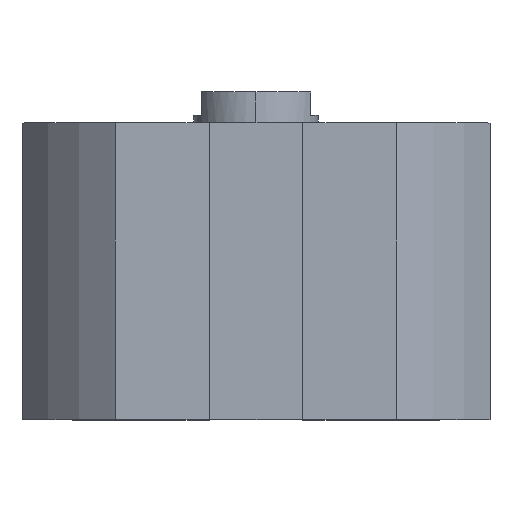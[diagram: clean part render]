
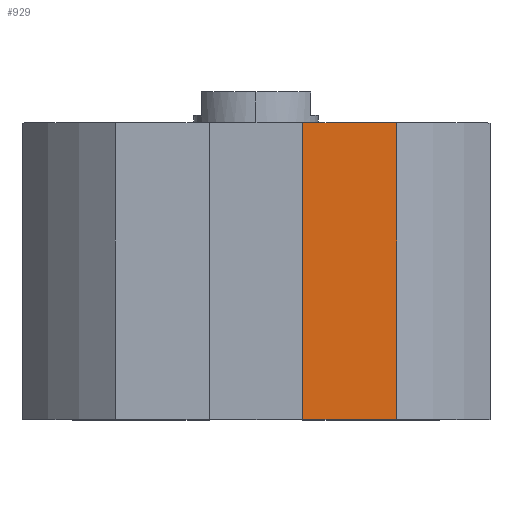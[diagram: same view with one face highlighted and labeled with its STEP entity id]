
A CAD part, top view. The second image highlights one B-rep face of the part: STEP entity #929.
In plain terms, the highlighted planar face has unit normal (0, 0, 1).
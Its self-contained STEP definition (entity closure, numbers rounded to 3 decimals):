
#11 = ORIENTED_EDGE ( 'NONE', *, *, #152, .F. ) ;
#64 = ORIENTED_EDGE ( 'NONE', *, *, #2061, .F. ) ;
#152 = EDGE_CURVE ( 'NONE', #1689, #912, #1170, .T. ) ;
#188 = LINE ( 'NONE', #1402, #1804 ) ;
#195 = CARTESIAN_POINT ( 'NONE',  ( 18.028, -38., 30. ) ) ;
#308 = PLANE ( 'NONE',  #980 ) ;
#529 = DIRECTION ( 'NONE',  ( 0., 0., 1. ) ) ;
#600 = VECTOR ( 'NONE', #1136, 1000. ) ;
#680 = EDGE_CURVE ( 'NONE', #1567, #1538, #1346, .T. ) ;
#776 = CARTESIAN_POINT ( 'NONE',  ( 6., -38., 30. ) ) ;
#803 = CARTESIAN_POINT ( 'NONE',  ( 0., -38., 30. ) ) ;
#912 = VERTEX_POINT ( 'NONE', #2989 ) ;
#929 = ADVANCED_FACE ( 'NONE', ( #2182 ), #308, .T. ) ;
#980 = AXIS2_PLACEMENT_3D ( 'NONE', #803, #529, #2439 ) ;
#1045 = EDGE_CURVE ( 'NONE', #1689, #1567, #2817, .T. ) ;
#1136 = DIRECTION ( 'NONE',  ( 0., 1., 0. ) ) ;
#1170 = LINE ( 'NONE', #776, #600 ) ;
#1346 = LINE ( 'NONE', #195, #2569 ) ;
#1402 = CARTESIAN_POINT ( 'NONE',  ( 0., 0., 30. ) ) ;
#1538 = VERTEX_POINT ( 'NONE', #2229 ) ;
#1567 = VERTEX_POINT ( 'NONE', #3065 ) ;
#1689 = VERTEX_POINT ( 'NONE', #2298 ) ;
#1804 = VECTOR ( 'NONE', #2494, 1000. ) ;
#1953 = CARTESIAN_POINT ( 'NONE',  ( 0., -38., 30. ) ) ;
#2061 = EDGE_CURVE ( 'NONE', #912, #1538, #188, .T. ) ;
#2094 = DIRECTION ( 'NONE',  ( 0., 1., 0. ) ) ;
#2182 = FACE_OUTER_BOUND ( 'NONE', #3368, .T. ) ;
#2229 = CARTESIAN_POINT ( 'NONE',  ( 18.028, 0., 30. ) ) ;
#2298 = CARTESIAN_POINT ( 'NONE',  ( 6., -38., 30. ) ) ;
#2439 = DIRECTION ( 'NONE',  ( 1., 0., 0. ) ) ;
#2489 = DIRECTION ( 'NONE',  ( 1., 0., 0. ) ) ;
#2494 = DIRECTION ( 'NONE',  ( 1., 0., 0. ) ) ;
#2569 = VECTOR ( 'NONE', #2094, 1000. ) ;
#2610 = ORIENTED_EDGE ( 'NONE', *, *, #680, .T. ) ;
#2728 = VECTOR ( 'NONE', #2489, 1000. ) ;
#2817 = LINE ( 'NONE', #1953, #2728 ) ;
#2822 = ORIENTED_EDGE ( 'NONE', *, *, #1045, .T. ) ;
#2989 = CARTESIAN_POINT ( 'NONE',  ( 6., 0., 30. ) ) ;
#3065 = CARTESIAN_POINT ( 'NONE',  ( 18.028, -38., 30. ) ) ;
#3368 = EDGE_LOOP ( 'NONE', ( #64, #11, #2822, #2610 ) ) ;
